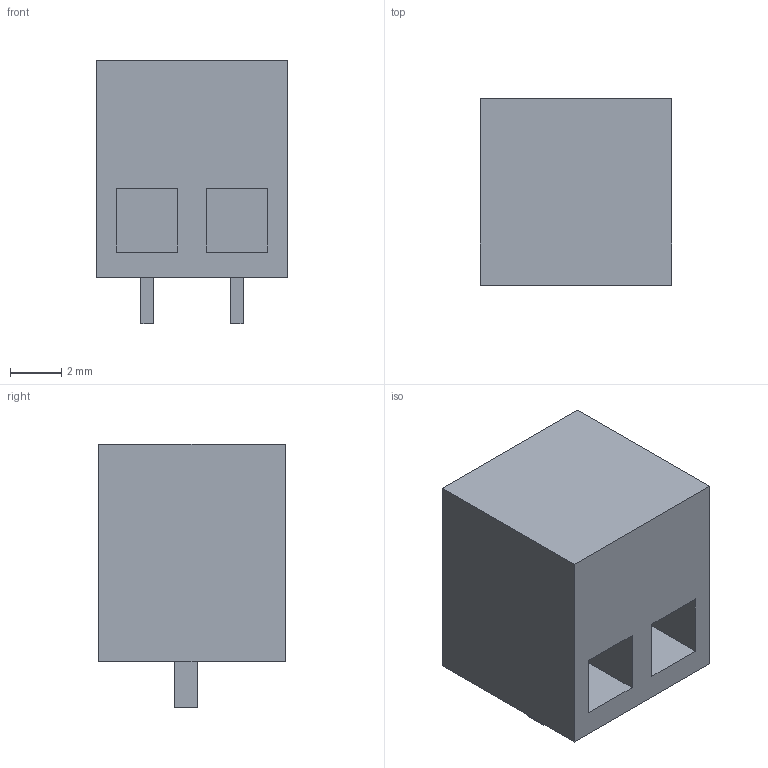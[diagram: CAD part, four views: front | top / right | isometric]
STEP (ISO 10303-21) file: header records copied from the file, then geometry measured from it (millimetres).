
FILE_DESCRIPTION(('FreeCAD Model'),'2;1');
FILE_NAME('Open CASCADE Shape Model','2026-10-14T23:10:09',('FreeCAD'),( 'FreeCAD'),'Open CASCADE STEP processor 7.9','FreeCAD','Unknown');
FILE_SCHEMA(('AUTOMOTIVE_DESIGN { 1 0 10303 214 1 1 1 1 }'));
Length unit declared in the file: millimetre
Products named in the file (1): Open CASCADE STEP translator 7.9 3
Bounding box: 7.5 x 7.3 x 10.3 mm (x, y, z)
Volume: 432.2 mm3; surface area: 429.8 mm2
Topology: 3 solids, 3 shells, 28 faces, 60 edges, 40 vertices
Faces by surface type: plane 28
Entity records: 750 total; most frequent: CARTESIAN_POINT 129, ORIENTED_EDGE 120, DIRECTION 118, EDGE_CURVE 60, LINE 60, VECTOR 60, VERTEX_POINT 40, FACE_BOUND 30
